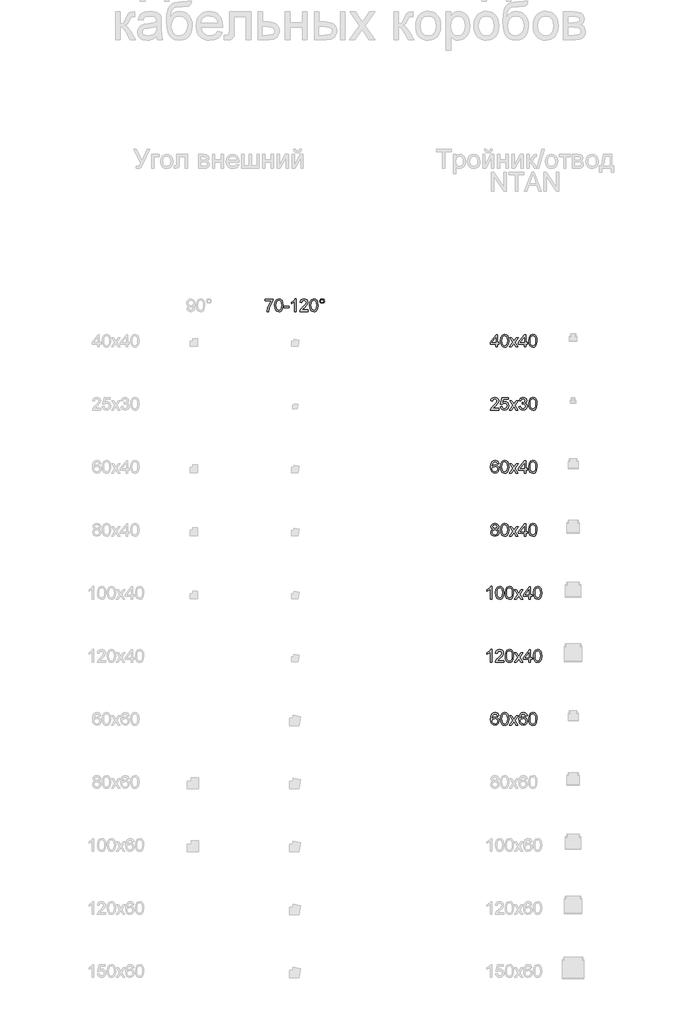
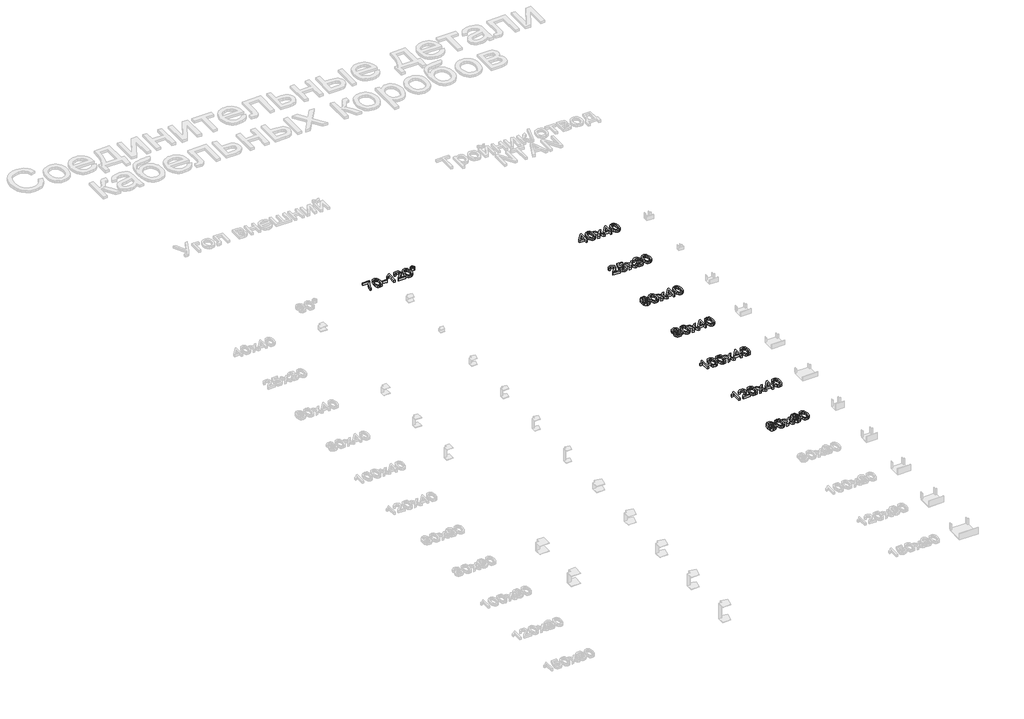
# One storey, part 24 of 28: 8 proxies.
"""IFC4 building model written with IfcOpenShell, lengths in millimetres."""

from ifc_helpers import new_model, si_unit, origin, origin_with_axes, place, context, project, spatial, polyline, outline, extrude, element, save

model = new_model("IFC4")

# Units and contexts
model_context = context("Model", 3, world=origin())
ifc_project = project(units=[si_unit("LENGTHUNIT", "METRE", prefix="MILLI")], contexts=[model_context])

# Site, building, storey
site = spatial("IfcSite", under=ifc_project)
building = spatial("IfcBuilding", under=site)
storey = spatial("IfcBuildingStorey", under=building, Name="Этаж 01", Elevation=0.0)

# Proxies
placement = place(None, origin())
element("IfcBuildingElementProxy", 1, Name="100 мм Arial", ObjectType="100 мм Arial", at=placement, inside=storey, context=model_context, shape_type="SweptSolid", body=[
    extrude(outline(polyline([(19426.7259865, 3404.3207982), (19426.7259865, 3416.877837), (19492.65044, 3416.877837), (19492.65044, 3406.7242939), (19473.949772, 3379.7094928), (19459.6391623, 3345.2880008), (19454.9793237, 3317.9911567), (19442.422285, 3317.9911567), (19447.4132174, 3346.3180703), (19461.1106903, 3378.3360667), (19480.0934013, 3404.3207982), (19426.7259865, 3404.3207982)])), origin_with_axes(), (0.0, 0.0, 1.0), 20.0),
    extrude(outline(polyline([(19503.637849, 3367.4099714), (19507.3289316, 3396.3132335), (19518.2918151, 3412.9782879), (19536.6000757, 3418.4474669), (19551.2663046, 3415.2101053), (19561.3953222, 3405.8781654), (19567.2814341, 3391.0157328), (19569.5623025, 3367.4099714), (19565.908008, 3338.6293366), (19554.9819128, 3321.9274941), (19546.7505531, 3317.7980187), (19536.6000757, 3316.4215269), (19523.5525276, 3318.8127598), (19513.6442392, 3325.9864587), (19506.1394465, 3342.9764756), (19503.637849, 3367.4099714)]), holes=[polyline([(19516.1948877, 3367.4344969), (19517.6664157, 3347.6822994), (19522.0809997, 3336.2503664), (19528.6538246, 3330.7965158), (19536.6000757, 3328.9785656), (19544.5463268, 3330.8026472), (19551.1191518, 3336.2748919), (19555.5337357, 3347.7129562), (19557.0052637, 3367.4344969), (19555.5827867, 3386.7421702), (19551.3153555, 3398.2630081), (19544.7547933, 3403.9835731), (19536.4529229, 3405.8904281), (19528.592511, 3404.2104336), (19522.2772034, 3399.1704503), (19517.7154666, 3386.9322426), (19516.1948877, 3367.4344969)])]), origin_with_axes(), (0.0, 0.0, 1.0), 20.0),
    extrude(outline(polyline([(19577.4104517, 3347.8141238), (19577.4104517, 3360.3711626), (19616.6511979, 3360.3711626), (19616.6511979, 3347.8141238), (19577.4104517, 3347.8141238)])), origin_with_axes(), (0.0, 0.0, 1.0), 20.0),
    extrude(outline(polyline([(19674.7275022, 3317.9911567), (19662.1704634, 3317.9911567), (19662.1704634, 3396.2764453), (19650.2756122, 3387.8028967), (19637.0563859, 3381.4630636), (19637.0563859, 3393.3333893), (19655.4627484, 3405.0810877), (19666.6340983, 3418.4474669), (19674.7275022, 3418.4474669), (19674.7275022, 3317.9911567)])), origin_with_axes(), (0.0, 0.0, 1.0), 20.0),
    extrude(outline(polyline([(19768.905293, 3330.5481955), (19768.905293, 3317.9911567), (19702.9808394, 3317.9911567), (19704.3297401, 3326.6486463), (19711.9571601, 3339.9782373), (19727.677984, 3354.5341016), (19749.3584963, 3375.4543244), (19754.7786243, 3389.6790948), (19749.6650646, 3401.1938013), (19736.3109482, 3405.8904281), (19722.392746, 3401.3041659), (19717.107508, 3388.6244998), (19704.5504693, 3390.1941296), (19707.5946928, 3402.3403668), (19714.1767148, 3411.2124543), (19723.9531788, 3416.6387137), (19736.5807283, 3418.4474669), (19749.3002483, 3416.4363786), (19759.0583182, 3410.4031139), (19765.2663269, 3401.390005), (19767.3356631, 3390.4393843), (19765.1038457, 3378.5322704), (19757.6848921, 3366.2204863), (19739.6954625, 3349.0158716), (19725.2499629, 3336.9370795), (19719.5845801, 3330.5481955), (19768.905293, 3330.5481955)])), origin_with_axes(), (0.0, 0.0, 1.0), 20.0),
    extrude(outline(polyline([(19781.4623317, 3367.4099714), (19785.1534144, 3396.3132335), (19796.1162979, 3412.9782879), (19814.4245585, 3418.4474669), (19829.0907874, 3415.2101053), (19839.219805, 3405.8781654), (19845.1059169, 3391.0157328), (19847.3867853, 3367.4099714), (19843.7324908, 3338.6293366), (19832.8063955, 3321.9274941), (19824.5750359, 3317.7980187), (19814.4245585, 3316.4215269), (19801.3770104, 3318.8127598), (19791.468722, 3325.9864587), (19783.9639293, 3342.9764756), (19781.4623317, 3367.4099714)]), holes=[polyline([(19794.0193705, 3367.4344969), (19795.4908985, 3347.6822994), (19799.9054824, 3336.2503664), (19806.4783074, 3330.7965158), (19814.4245585, 3328.9785656), (19822.3708096, 3330.8026472), (19828.9436346, 3336.2748919), (19833.3582185, 3347.7129562), (19834.8297465, 3367.4344969), (19833.4072694, 3386.7421702), (19829.1398383, 3398.2630081), (19822.579276, 3403.9835731), (19814.2774057, 3405.8904281), (19806.4169937, 3404.2104336), (19800.1016861, 3399.1704503), (19795.5399494, 3386.9322426), (19794.0193705, 3367.4344969)])]), origin_with_axes(), (0.0, 0.0, 1.0), 20.0),
    extrude(outline(polyline([(19861.5134539, 3401.206064), (19867.0439465, 3414.5233922), (19880.3244866, 3420.0170967), (19893.6908657, 3414.5233922), (19899.1845702, 3401.206064), (19893.6540775, 3387.8764731), (19880.3244866, 3382.3459804), (19867.0439465, 3387.8396849), (19861.5134539, 3401.206064)]), holes=[polyline([(19869.3616031, 3401.1815386), (19872.5867019, 3393.4069657), (19880.3735375, 3390.1941296), (19888.1113221, 3393.4069657), (19891.3364209, 3401.1815386), (19888.1113221, 3408.9561114), (19880.3735375, 3412.1689475), (19872.5867019, 3408.9561114), (19869.3616031, 3401.1815386)])]), origin_with_axes(), (0.0, 0.0, 1.0), 20.0),
])
element("IfcBuildingElementProxy", 2, Name="100 мм Arial", ObjectType="100 мм Arial", at=placement, inside=storey, context=model_context, shape_type="SweptSolid", body=[
    extrude(outline(polyline([(21259.7099126, 3036.6647442), (21259.7099126, 3060.2091919), (21214.1906471, 3060.2091919), (21214.1906471, 3072.7662307), (21262.8491723, 3135.5514245), (21272.2669514, 3135.5514245), (21272.2669514, 3072.7662307), (21284.8239902, 3072.7662307), (21284.8239902, 3060.2091919), (21272.2669514, 3060.2091919), (21272.2669514, 3036.6647442), (21259.7099126, 3036.6647442)]), holes=[polyline([(21259.7099126, 3072.7662307), (21259.7099126, 3111.5655184), (21229.6416909, 3072.7662307), (21259.7099126, 3072.7662307)])]), origin_with_axes(), (0.0, 0.0, 1.0), 20.0),
    extrude(outline(polyline([(21295.8113991, 3086.0835589), (21299.5024818, 3114.986821), (21310.4653652, 3131.6518754), (21328.7736259, 3137.1210543), (21343.4398547, 3133.8836928), (21353.5688723, 3124.5517528), (21359.4549843, 3109.6893202), (21361.7358526, 3086.0835589), (21358.0815581, 3057.3029241), (21347.1554629, 3040.6010815), (21338.9241032, 3036.4716062), (21328.7736259, 3035.0951144), (21315.7260778, 3037.4863473), (21305.8177894, 3044.6600462), (21298.3129967, 3061.650063), (21295.8113991, 3086.0835589)]), holes=[polyline([(21308.3684379, 3086.1080844), (21309.8399658, 3066.3558869), (21314.2545498, 3054.9239539), (21320.8273748, 3049.4701033), (21328.7736259, 3047.6521531), (21336.719877, 3049.4762347), (21343.2927019, 3054.9484794), (21347.7072859, 3066.3865437), (21349.1788139, 3086.1080844), (21347.7563368, 3105.4157577), (21343.4889057, 3116.9365955), (21336.9283434, 3122.6571606), (21328.6264731, 3124.5640156), (21320.7660611, 3122.8840211), (21314.4507535, 3117.8440378), (21309.8890168, 3105.6058301), (21308.3684379, 3086.1080844)])]), origin_with_axes(), (0.0, 0.0, 1.0), 20.0),
    extrude(outline(polyline([(21368.014372, 3036.6647442), (21394.8452322, 3073.7472493), (21369.5840019, 3110.437347), (21384.6916891, 3110.437347), (21396.8808459, 3092.7790112), (21402.5707541, 3084.4403526), (21407.5003728, 3091.2584323), (21421.3817868, 3110.437347), (21436.489474, 3110.437347), (21409.9529195, 3073.7472493), (21435.5084554, 3036.6647442), (21420.4007681, 3036.6647442), (21405.0233007, 3058.9583931), (21402.2028721, 3063.0296205), (21383.1220593, 3036.6647442), (21368.014372, 3036.6647442)])), origin_with_axes(), (0.0, 0.0, 1.0), 20.0),
    extrude(outline(polyline([(21484.1669806, 3036.6647442), (21484.1669806, 3060.2091919), (21438.6477151, 3060.2091919), (21438.6477151, 3072.7662307), (21487.3062403, 3135.5514245), (21496.7240194, 3135.5514245), (21496.7240194, 3072.7662307), (21509.2810582, 3072.7662307), (21509.2810582, 3060.2091919), (21496.7240194, 3060.2091919), (21496.7240194, 3036.6647442), (21484.1669806, 3036.6647442)]), holes=[polyline([(21484.1669806, 3072.7662307), (21484.1669806, 3111.5655184), (21454.0987589, 3072.7662307), (21484.1669806, 3072.7662307)])]), origin_with_axes(), (0.0, 0.0, 1.0), 20.0),
    extrude(outline(polyline([(21520.2684671, 3086.0835589), (21523.9595498, 3114.986821), (21534.9224332, 3131.6518754), (21553.2306938, 3137.1210543), (21567.8969227, 3133.8836928), (21578.0259403, 3124.5517528), (21583.9120522, 3109.6893202), (21586.1929206, 3086.0835589), (21582.5386261, 3057.3029241), (21571.6125309, 3040.6010815), (21563.3811712, 3036.4716062), (21553.2306938, 3035.0951144), (21540.1831458, 3037.4863473), (21530.2748573, 3044.6600462), (21522.7700646, 3061.650063), (21520.2684671, 3086.0835589)]), holes=[polyline([(21532.8255058, 3086.1080844), (21534.2970338, 3066.3558869), (21538.7116178, 3054.9239539), (21545.2844428, 3049.4701033), (21553.2306938, 3047.6521531), (21561.1769449, 3049.4762347), (21567.7497699, 3054.9484794), (21572.1643539, 3066.3865437), (21573.6358818, 3086.1080844), (21572.2134048, 3105.4157577), (21567.9459737, 3116.9365955), (21561.3854114, 3122.6571606), (21553.0835411, 3124.5640156), (21545.2231291, 3122.8840211), (21538.9078215, 3117.8440378), (21534.3460848, 3105.6058301), (21532.8255058, 3086.1080844)])]), origin_with_axes(), (0.0, 0.0, 1.0), 20.0),
])
element("IfcBuildingElementProxy", 3, Name="100 мм Arial", ObjectType="100 мм Arial", at=placement, inside=storey, context=model_context, shape_type="SweptSolid", body=[
    extrude(outline(polyline([(21283.2543603, 2549.221783), (21283.2543603, 2536.6647442), (21217.3299068, 2536.6647442), (21218.6788074, 2545.3222338), (21226.3062275, 2558.6518248), (21242.0270514, 2573.2076891), (21263.7075636, 2594.1279118), (21269.1276917, 2608.3526823), (21264.014132, 2619.8673888), (21250.6600155, 2624.5640156), (21236.7418134, 2619.9777534), (21231.4565754, 2607.2980873), (21218.8995366, 2608.8677171), (21221.9437601, 2621.0139543), (21228.5257822, 2629.8860418), (21238.3022462, 2635.3123012), (21250.9297957, 2637.1210543), (21263.6493157, 2635.1099661), (21273.4073856, 2629.0767014), (21279.6153943, 2620.0635925), (21281.6847305, 2609.1129718), (21279.452913, 2597.2058579), (21272.0339595, 2584.8940738), (21254.0445299, 2567.6894591), (21239.5990302, 2555.610667), (21233.9336475, 2549.221783), (21283.2543603, 2549.221783)])), origin_with_axes(), (0.0, 0.0, 1.0), 20.0),
    extrude(outline(polyline([(21295.8113991, 2563.3484516), (21308.3684379, 2564.9180814), (21314.6960082, 2551.9808979), (21327.8171327, 2547.6521531), (21336.8179788, 2549.1574036), (21343.5624821, 2553.6731551), (21347.7747309, 2560.6782414), (21349.1788139, 2569.6514964), (21343.9181013, 2584.56298), (21337.3115538, 2588.6648642), (21328.0133364, 2590.032159), (21316.9891393, 2587.8493925), (21309.9380677, 2582.1840097), (21297.3810289, 2583.7536396), (21308.3684379, 2635.5514245), (21357.0269631, 2635.5514245), (21357.0269631, 2622.9943857), (21318.5219809, 2622.9943857), (21313.1509038, 2595.3296597), (21322.1210931, 2600.7743132), (21331.5204781, 2602.5891977), (21343.2528481, 2600.3389862), (21352.9925239, 2593.5883516), (21359.5500204, 2583.2999185), (21361.7358526, 2570.4363114), (21359.767684, 2557.8792726), (21353.8631779, 2547.1371183), (21342.5569379, 2538.1056153), (21327.7680817, 2535.0951144), (21315.4348378, 2537.0295605), (21305.6093229, 2542.832899), (21298.8740167, 2551.8306794), (21295.8113991, 2563.3484516)])), origin_with_axes(), (0.0, 0.0, 1.0), 20.0),
    extrude(outline(polyline([(21368.014372, 2536.6647442), (21394.8452322, 2573.7472493), (21369.5840019, 2610.437347), (21384.6916891, 2610.437347), (21396.8808459, 2592.7790112), (21402.5707541, 2584.4403526), (21407.5003728, 2591.2584323), (21421.3817868, 2610.437347), (21436.489474, 2610.437347), (21409.9529195, 2573.7472493), (21435.5084554, 2536.6647442), (21420.4007681, 2536.6647442), (21405.0233007, 2558.9583931), (21402.2028721, 2563.0296205), (21383.1220593, 2536.6647442), (21368.014372, 2536.6647442)])), origin_with_axes(), (0.0, 0.0, 1.0), 20.0),
    extrude(outline(polyline([(21443.3566046, 2563.3484516), (21455.9136434, 2564.9180814), (21462.8420876, 2551.6988551), (21475.8037966, 2547.6521531), (21484.4122353, 2549.0439733), (21491.0586367, 2553.219434), (21496.7240194, 2567.0027461), (21491.1076876, 2579.9889805), (21476.8338662, 2585.1270657), (21468.0292238, 2583.7536396), (21469.4271753, 2596.3106783), (21471.4382636, 2596.1635256), (21485.6875595, 2599.7687691), (21490.4332373, 2604.3427686), (21492.0151299, 2610.8542799), (21487.4288676, 2620.6767292), (21475.6075929, 2624.5640156), (21463.6391653, 2620.639941), (21457.4832732, 2608.8677171), (21444.9262345, 2610.437347), (21448.6234485, 2621.7129301), (21455.2024049, 2630.1312964), (21464.203251, 2635.3736149), (21475.1661345, 2637.1210543), (21490.3106099, 2633.6752263), (21500.9056114, 2624.2574473), (21504.5721686, 2611.5900439), (21501.0895524, 2600.0140238), (21490.7888565, 2591.6998907), (21504.4740668, 2583.1159775), (21509.2810582, 2566.7820169), (21506.8775625, 2554.5438092), (21499.6670754, 2544.3166897), (21488.7838997, 2537.4005082), (21475.3623382, 2535.0951144), (21463.2222324, 2537.063283), (21453.3384694, 2542.967789), (21446.4652075, 2551.999292), (21443.3566046, 2563.3484516)])), origin_with_axes(), (0.0, 0.0, 1.0), 20.0),
    extrude(outline(polyline([(21520.2684671, 2586.0835589), (21523.9595498, 2614.986821), (21534.9224332, 2631.6518754), (21553.2306938, 2637.1210543), (21567.8969227, 2633.8836928), (21578.0259403, 2624.5517528), (21583.9120522, 2609.6893202), (21586.1929206, 2586.0835589), (21582.5386261, 2557.3029241), (21571.6125309, 2540.6010815), (21563.3811712, 2536.4716062), (21553.2306938, 2535.0951144), (21540.1831458, 2537.4863473), (21530.2748573, 2544.6600462), (21522.7700646, 2561.650063), (21520.2684671, 2586.0835589)]), holes=[polyline([(21532.8255058, 2586.1080844), (21534.2970338, 2566.3558869), (21538.7116178, 2554.9239539), (21545.2844428, 2549.4701033), (21553.2306938, 2547.6521531), (21561.1769449, 2549.4762347), (21567.7497699, 2554.9484794), (21572.1643539, 2566.3865437), (21573.6358818, 2586.1080844), (21572.2134048, 2605.4157577), (21567.9459737, 2616.9365955), (21561.3854114, 2622.6571606), (21553.0835411, 2624.5640156), (21545.2231291, 2622.8840211), (21538.9078215, 2617.8440378), (21534.3460848, 2605.6058301), (21532.8255058, 2586.1080844)])]), origin_with_axes(), (0.0, 0.0, 1.0), 20.0),
])
element("IfcBuildingElementProxy", 4, Name="100 мм Arial", ObjectType="100 мм Arial", at=placement, inside=storey, context=model_context, shape_type="SweptSolid", body=[
    extrude(outline(polyline([(21283.2543603, 2110.437347), (21270.6973216, 2108.8677171), (21265.9393811, 2119.3400912), (21253.3578168, 2124.5640156), (21242.0270514, 2121.5228578), (21233.4554009, 2110.1062532), (21229.8869456, 2087.7267651), (21240.9601936, 2097.7454181), (21254.682192, 2101.0195679), (21266.2827376, 2098.7816191), (21276.0193477, 2092.0677727), (21282.6228296, 2081.8099964), (21284.8239902, 2068.9402579), (21280.6791864, 2051.6130159), (21269.2748445, 2039.3502828), (21252.8182566, 2035.0951144), (21238.5720263, 2037.915543), (21227.2259325, 2046.3768289), (21219.8039132, 2061.3128379), (21217.3299068, 2083.5574359), (21220.076759, 2108.5672802), (21228.3173157, 2125.6676616), (21239.5683734, 2134.2577062), (21254.1426318, 2137.1210543), (21265.1606975, 2135.3490894), (21273.983734, 2130.0331946), (21280.1641516, 2121.5903028), (21283.2543603, 2110.437347)]), holes=[polyline([(21229.8869456, 2069.1364616), (21232.7932133, 2058.2594173), (21240.5187352, 2050.3622172), (21251.8372379, 2047.6521531), (21260.1237799, 2049.0562361), (21266.6383569, 2053.2684849), (21270.8598028, 2059.8903608), (21272.2669514, 2068.523325), (21270.8781969, 2076.8098669), (21266.7119333, 2083.1282402), (21260.0869917, 2087.1289569), (21251.3222031, 2088.4625291), (21236.1286767, 2083.1282402), (21231.4473784, 2076.9631511), (21229.8869456, 2069.1364616)])]), origin_with_axes(), (0.0, 0.0, 1.0), 20.0),
    extrude(outline(polyline([(21295.8113991, 2086.0835589), (21299.5024818, 2114.986821), (21310.4653652, 2131.6518754), (21328.7736259, 2137.1210543), (21343.4398547, 2133.8836928), (21353.5688723, 2124.5517528), (21359.4549843, 2109.6893202), (21361.7358526, 2086.0835589), (21358.0815581, 2057.3029241), (21347.1554629, 2040.6010815), (21338.9241032, 2036.4716062), (21328.7736259, 2035.0951144), (21315.7260778, 2037.4863473), (21305.8177894, 2044.6600462), (21298.3129967, 2061.650063), (21295.8113991, 2086.0835589)]), holes=[polyline([(21308.3684379, 2086.1080844), (21309.8399658, 2066.3558869), (21314.2545498, 2054.9239539), (21320.8273748, 2049.4701033), (21328.7736259, 2047.6521531), (21336.719877, 2049.4762347), (21343.2927019, 2054.9484794), (21347.7072859, 2066.3865437), (21349.1788139, 2086.1080844), (21347.7563368, 2105.4157577), (21343.4889057, 2116.9365955), (21336.9283434, 2122.6571606), (21328.6264731, 2124.5640156), (21320.7660611, 2122.8840211), (21314.4507535, 2117.8440378), (21309.8890168, 2105.6058301), (21308.3684379, 2086.1080844)])]), origin_with_axes(), (0.0, 0.0, 1.0), 20.0),
    extrude(outline(polyline([(21368.014372, 2036.6647442), (21394.8452322, 2073.7472493), (21369.5840019, 2110.437347), (21384.6916891, 2110.437347), (21396.8808459, 2092.7790112), (21402.5707541, 2084.4403526), (21407.5003728, 2091.2584323), (21421.3817868, 2110.437347), (21436.489474, 2110.437347), (21409.9529195, 2073.7472493), (21435.5084554, 2036.6647442), (21420.4007681, 2036.6647442), (21405.0233007, 2058.9583931), (21402.2028721, 2063.0296205), (21383.1220593, 2036.6647442), (21368.014372, 2036.6647442)])), origin_with_axes(), (0.0, 0.0, 1.0), 20.0),
    extrude(outline(polyline([(21484.1669806, 2036.6647442), (21484.1669806, 2060.2091919), (21438.6477151, 2060.2091919), (21438.6477151, 2072.7662307), (21487.3062403, 2135.5514245), (21496.7240194, 2135.5514245), (21496.7240194, 2072.7662307), (21509.2810582, 2072.7662307), (21509.2810582, 2060.2091919), (21496.7240194, 2060.2091919), (21496.7240194, 2036.6647442), (21484.1669806, 2036.6647442)]), holes=[polyline([(21484.1669806, 2072.7662307), (21484.1669806, 2111.5655184), (21454.0987589, 2072.7662307), (21484.1669806, 2072.7662307)])]), origin_with_axes(), (0.0, 0.0, 1.0), 20.0),
    extrude(outline(polyline([(21520.2684671, 2086.0835589), (21523.9595498, 2114.986821), (21534.9224332, 2131.6518754), (21553.2306938, 2137.1210543), (21567.8969227, 2133.8836928), (21578.0259403, 2124.5517528), (21583.9120522, 2109.6893202), (21586.1929206, 2086.0835589), (21582.5386261, 2057.3029241), (21571.6125309, 2040.6010815), (21563.3811712, 2036.4716062), (21553.2306938, 2035.0951144), (21540.1831458, 2037.4863473), (21530.2748573, 2044.6600462), (21522.7700646, 2061.650063), (21520.2684671, 2086.0835589)]), holes=[polyline([(21532.8255058, 2086.1080844), (21534.2970338, 2066.3558869), (21538.7116178, 2054.9239539), (21545.2844428, 2049.4701033), (21553.2306938, 2047.6521531), (21561.1769449, 2049.4762347), (21567.7497699, 2054.9484794), (21572.1643539, 2066.3865437), (21573.6358818, 2086.1080844), (21572.2134048, 2105.4157577), (21567.9459737, 2116.9365955), (21561.3854114, 2122.6571606), (21553.0835411, 2124.5640156), (21545.2231291, 2122.8840211), (21538.9078215, 2117.8440378), (21534.3460848, 2105.6058301), (21532.8255058, 2086.1080844)])]), origin_with_axes(), (0.0, 0.0, 1.0), 20.0),
])
element("IfcBuildingElementProxy", 5, Name="100 мм Arial", ObjectType="100 мм Arial", at=placement, inside=storey, context=model_context, shape_type="SweptSolid", body=[
    extrude(outline(polyline([(21237.1955345, 1591.9941963), (21225.7544045, 1599.7932946), (21222.0387963, 1611.9334004), (21224.0621473, 1621.7497183), (21230.1322002, 1629.8615163), (21239.5683734, 1635.3061698), (21251.6900851, 1637.1210543), (21263.8853733, 1635.2632503), (21273.4441738, 1629.689838), (21279.6245913, 1621.4492814), (21281.6847305, 1611.5900439), (21278.0181733, 1599.7565064), (21266.8958743, 1591.9941963), (21280.2499907, 1582.1472215), (21284.8239902, 1565.8991001), (21282.5553845, 1553.8938843), (21275.7495676, 1543.9733332), (21265.2404053, 1537.3146691), (21251.8617634, 1535.0951144), (21238.4831215, 1537.3238661), (21227.9739592, 1544.0101214), (21221.1681423, 1554.0257087), (21218.8995366, 1566.2424566), (21223.6574771, 1582.8707228), (21237.1955345, 1591.9941963)]), holes=[polyline([(21234.5958351, 1611.5655184), (21239.0472072, 1601.7062809), (21252.0089162, 1597.8803082), (21264.7131078, 1601.6817555), (21269.1276917, 1611.0014327), (21264.565955, 1620.6522037), (21251.8617634, 1624.5640156), (21239.1207836, 1620.7380428), (21234.5958351, 1611.5655184)]), polyline([(21231.4565754, 1566.683915), (21233.5535028, 1557.2293477), (21240.9724563, 1550.1537507), (21251.9598653, 1547.6521531), (21260.5069903, 1548.9673313), (21266.9203997, 1552.9128657), (21272.2669514, 1566.2915075), (21266.7487215, 1579.9276668), (21260.1881592, 1583.9743688), (21251.5429323, 1585.3232694), (21243.115369, 1583.9927629), (21236.7663389, 1580.0012432), (21231.4565754, 1566.683915)])]), origin_with_axes(), (0.0, 0.0, 1.0), 20.0),
    extrude(outline(polyline([(21295.8113991, 1586.0835589), (21299.5024818, 1614.986821), (21310.4653652, 1631.6518754), (21328.7736259, 1637.1210543), (21343.4398547, 1633.8836928), (21353.5688723, 1624.5517528), (21359.4549843, 1609.6893202), (21361.7358526, 1586.0835589), (21358.0815581, 1557.3029241), (21347.1554629, 1540.6010815), (21338.9241032, 1536.4716062), (21328.7736259, 1535.0951144), (21315.7260778, 1537.4863473), (21305.8177894, 1544.6600462), (21298.3129967, 1561.650063), (21295.8113991, 1586.0835589)]), holes=[polyline([(21308.3684379, 1586.1080844), (21309.8399658, 1566.3558869), (21314.2545498, 1554.9239539), (21320.8273748, 1549.4701033), (21328.7736259, 1547.6521531), (21336.719877, 1549.4762347), (21343.2927019, 1554.9484794), (21347.7072859, 1566.3865437), (21349.1788139, 1586.1080844), (21347.7563368, 1605.4157577), (21343.4889057, 1616.9365955), (21336.9283434, 1622.6571606), (21328.6264731, 1624.5640156), (21320.7660611, 1622.8840211), (21314.4507535, 1617.8440378), (21309.8890168, 1605.6058301), (21308.3684379, 1586.1080844)])]), origin_with_axes(), (0.0, 0.0, 1.0), 20.0),
    extrude(outline(polyline([(21368.014372, 1536.6647442), (21394.8452322, 1573.7472493), (21369.5840019, 1610.437347), (21384.6916891, 1610.437347), (21396.8808459, 1592.7790112), (21402.5707541, 1584.4403526), (21407.5003728, 1591.2584323), (21421.3817868, 1610.437347), (21436.489474, 1610.437347), (21409.9529195, 1573.7472493), (21435.5084554, 1536.6647442), (21420.4007681, 1536.6647442), (21405.0233007, 1558.9583931), (21402.2028721, 1563.0296205), (21383.1220593, 1536.6647442), (21368.014372, 1536.6647442)])), origin_with_axes(), (0.0, 0.0, 1.0), 20.0),
    extrude(outline(polyline([(21484.1669806, 1536.6647442), (21484.1669806, 1560.2091919), (21438.6477151, 1560.2091919), (21438.6477151, 1572.7662307), (21487.3062403, 1635.5514245), (21496.7240194, 1635.5514245), (21496.7240194, 1572.7662307), (21509.2810582, 1572.7662307), (21509.2810582, 1560.2091919), (21496.7240194, 1560.2091919), (21496.7240194, 1536.6647442), (21484.1669806, 1536.6647442)]), holes=[polyline([(21484.1669806, 1572.7662307), (21484.1669806, 1611.5655184), (21454.0987589, 1572.7662307), (21484.1669806, 1572.7662307)])]), origin_with_axes(), (0.0, 0.0, 1.0), 20.0),
    extrude(outline(polyline([(21520.2684671, 1586.0835589), (21523.9595498, 1614.986821), (21534.9224332, 1631.6518754), (21553.2306938, 1637.1210543), (21567.8969227, 1633.8836928), (21578.0259403, 1624.5517528), (21583.9120522, 1609.6893202), (21586.1929206, 1586.0835589), (21582.5386261, 1557.3029241), (21571.6125309, 1540.6010815), (21563.3811712, 1536.4716062), (21553.2306938, 1535.0951144), (21540.1831458, 1537.4863473), (21530.2748573, 1544.6600462), (21522.7700646, 1561.650063), (21520.2684671, 1586.0835589)]), holes=[polyline([(21532.8255058, 1586.1080844), (21534.2970338, 1566.3558869), (21538.7116178, 1554.9239539), (21545.2844428, 1549.4701033), (21553.2306938, 1547.6521531), (21561.1769449, 1549.4762347), (21567.7497699, 1554.9484794), (21572.1643539, 1566.3865437), (21573.6358818, 1586.1080844), (21572.2134048, 1605.4157577), (21567.9459737, 1616.9365955), (21561.3854114, 1622.6571606), (21553.0835411, 1624.5640156), (21545.2231291, 1622.8840211), (21538.9078215, 1617.8440378), (21534.3460848, 1605.6058301), (21532.8255058, 1586.1080844)])]), origin_with_axes(), (0.0, 0.0, 1.0), 20.0),
])
element("IfcBuildingElementProxy", 6, Name="100 мм Arial", ObjectType="100 мм Arial", at=placement, inside=storey, context=model_context, shape_type="SweptSolid", body=[
    extrude(outline(polyline([(21227.5325008, 1036.6647442), (21214.975462, 1036.6647442), (21214.975462, 1114.9500328), (21203.0806108, 1106.4764842), (21189.8613845, 1100.1366511), (21189.8613845, 1112.0069768), (21208.267747, 1123.7546752), (21219.4390969, 1137.1210543), (21227.5325008, 1137.1210543), (21227.5325008, 1036.6647442)])), origin_with_axes(), (0.0, 0.0, 1.0), 20.0),
    extrude(outline(polyline([(21257.3554679, 1086.0835589), (21261.0465505, 1114.986821), (21272.009434, 1131.6518754), (21290.3176946, 1137.1210543), (21304.9839235, 1133.8836928), (21315.1129411, 1124.5517528), (21320.999053, 1109.6893202), (21323.2799214, 1086.0835589), (21319.6256269, 1057.3029241), (21308.6995317, 1040.6010815), (21300.468172, 1036.4716062), (21290.3176946, 1035.0951144), (21277.2701465, 1037.4863473), (21267.3618581, 1044.6600462), (21259.8570654, 1061.650063), (21257.3554679, 1086.0835589)]), holes=[polyline([(21269.9125066, 1086.1080844), (21271.3840346, 1066.3558869), (21275.7986186, 1054.9239539), (21282.3714435, 1049.4701033), (21290.3176946, 1047.6521531), (21298.2639457, 1049.4762347), (21304.8367707, 1054.9484794), (21309.2513546, 1066.3865437), (21310.7228826, 1086.1080844), (21309.3004056, 1105.4157577), (21305.0329744, 1116.9365955), (21298.4724122, 1122.6571606), (21290.1705418, 1124.5640156), (21282.3101299, 1122.8840211), (21275.9948223, 1117.8440378), (21271.4330855, 1105.6058301), (21269.9125066, 1086.1080844)])]), origin_with_axes(), (0.0, 0.0, 1.0), 20.0),
    extrude(outline(polyline([(21334.2673303, 1086.0835589), (21337.958413, 1114.986821), (21348.9212965, 1131.6518754), (21367.2295571, 1137.1210543), (21381.895786, 1133.8836928), (21392.0248036, 1124.5517528), (21397.9109155, 1109.6893202), (21400.1917839, 1086.0835589), (21396.5374894, 1057.3029241), (21385.6113941, 1040.6010815), (21377.3800345, 1036.4716062), (21367.2295571, 1035.0951144), (21354.182009, 1037.4863473), (21344.2737206, 1044.6600462), (21336.7689279, 1061.650063), (21334.2673303, 1086.0835589)]), holes=[polyline([(21346.8243691, 1086.1080844), (21348.2958971, 1066.3558869), (21352.710481, 1054.9239539), (21359.283306, 1049.4701033), (21367.2295571, 1047.6521531), (21375.1758082, 1049.4762347), (21381.7486332, 1054.9484794), (21386.1632171, 1066.3865437), (21387.6347451, 1086.1080844), (21386.212268, 1105.4157577), (21381.9448369, 1116.9365955), (21375.3842746, 1122.6571606), (21367.0824043, 1124.5640156), (21359.2219923, 1122.8840211), (21352.9066847, 1117.8440378), (21348.344948, 1105.6058301), (21346.8243691, 1086.1080844)])]), origin_with_axes(), (0.0, 0.0, 1.0), 20.0),
    extrude(outline(polyline([(21406.4703032, 1036.6647442), (21433.3011634, 1073.7472493), (21408.0399331, 1110.437347), (21423.1476204, 1110.437347), (21435.3367771, 1092.7790112), (21441.0266853, 1084.4403526), (21445.9563041, 1091.2584323), (21459.837718, 1110.437347), (21474.9454053, 1110.437347), (21448.4088507, 1073.7472493), (21473.9643866, 1036.6647442), (21458.8566994, 1036.6647442), (21443.479232, 1058.9583931), (21440.6588033, 1063.0296205), (21421.5779905, 1036.6647442), (21406.4703032, 1036.6647442)])), origin_with_axes(), (0.0, 0.0, 1.0), 20.0),
    extrude(outline(polyline([(21522.6229119, 1036.6647442), (21522.6229119, 1060.2091919), (21477.1036463, 1060.2091919), (21477.1036463, 1072.7662307), (21525.7621715, 1135.5514245), (21535.1799506, 1135.5514245), (21535.1799506, 1072.7662307), (21547.7369894, 1072.7662307), (21547.7369894, 1060.2091919), (21535.1799506, 1060.2091919), (21535.1799506, 1036.6647442), (21522.6229119, 1036.6647442)]), holes=[polyline([(21522.6229119, 1072.7662307), (21522.6229119, 1111.5655184), (21492.5546901, 1072.7662307), (21522.6229119, 1072.7662307)])]), origin_with_axes(), (0.0, 0.0, 1.0), 20.0),
    extrude(outline(polyline([(21558.7243983, 1086.0835589), (21562.415481, 1114.986821), (21573.3783645, 1131.6518754), (21591.6866251, 1137.1210543), (21606.352854, 1133.8836928), (21616.4818716, 1124.5517528), (21622.3679835, 1109.6893202), (21624.6488518, 1086.0835589), (21620.9945574, 1057.3029241), (21610.0684621, 1040.6010815), (21601.8371025, 1036.4716062), (21591.6866251, 1035.0951144), (21578.639077, 1037.4863473), (21568.7307886, 1044.6600462), (21561.2259959, 1061.650063), (21558.7243983, 1086.0835589)]), holes=[polyline([(21571.2814371, 1086.1080844), (21572.7529651, 1066.3558869), (21577.167549, 1054.9239539), (21583.740374, 1049.4701033), (21591.6866251, 1047.6521531), (21599.6328762, 1049.4762347), (21606.2057012, 1054.9484794), (21610.6202851, 1066.3865437), (21612.0918131, 1086.1080844), (21610.669336, 1105.4157577), (21606.4019049, 1116.9365955), (21599.8413426, 1122.6571606), (21591.5394723, 1124.5640156), (21583.6790603, 1122.8840211), (21577.3637527, 1117.8440378), (21572.802016, 1105.6058301), (21571.2814371, 1086.1080844)])]), origin_with_axes(), (0.0, 0.0, 1.0), 20.0),
])
element("IfcBuildingElementProxy", 7, Name="100 мм Arial", ObjectType="100 мм Arial", at=placement, inside=storey, context=model_context, shape_type="SweptSolid", body=[
    extrude(outline(polyline([(21227.5325008, 536.6647442), (21214.975462, 536.6647442), (21214.975462, 614.9500328), (21203.0806108, 606.4764842), (21189.8613845, 600.1366511), (21189.8613845, 612.0069768), (21208.267747, 623.7546752), (21219.4390969, 637.1210543), (21227.5325008, 637.1210543), (21227.5325008, 536.6647442)])), origin_with_axes(), (0.0, 0.0, 1.0), 20.0),
    extrude(outline(polyline([(21321.7102916, 549.221783), (21321.7102916, 536.6647442), (21255.785838, 536.6647442), (21257.1347387, 545.3222338), (21264.7621587, 558.6518248), (21280.4829826, 573.2076891), (21302.1634949, 594.1279118), (21307.5836229, 608.3526823), (21302.4700632, 619.8673888), (21289.1159468, 624.5640156), (21275.1977446, 619.9777534), (21269.9125066, 607.2980873), (21257.3554679, 608.8677171), (21260.3996914, 621.0139543), (21266.9817134, 629.8860418), (21276.7581774, 635.3123012), (21289.3857269, 637.1210543), (21302.1052469, 635.1099661), (21311.8633168, 629.0767014), (21318.0713255, 620.0635925), (21320.1406617, 609.1129718), (21317.9088443, 597.2058579), (21310.4898907, 584.8940738), (21292.5004611, 567.6894591), (21278.0549615, 555.610667), (21272.3895787, 549.221783), (21321.7102916, 549.221783)])), origin_with_axes(), (0.0, 0.0, 1.0), 20.0),
    extrude(outline(polyline([(21334.2673303, 586.0835589), (21337.958413, 614.986821), (21348.9212965, 631.6518754), (21367.2295571, 637.1210543), (21381.895786, 633.8836928), (21392.0248036, 624.5517528), (21397.9109155, 609.6893202), (21400.1917839, 586.0835589), (21396.5374894, 557.3029241), (21385.6113941, 540.6010815), (21377.3800345, 536.4716062), (21367.2295571, 535.0951144), (21354.182009, 537.4863473), (21344.2737206, 544.6600462), (21336.7689279, 561.650063), (21334.2673303, 586.0835589)]), holes=[polyline([(21346.8243691, 586.1080844), (21348.2958971, 566.3558869), (21352.710481, 554.9239539), (21359.283306, 549.4701033), (21367.2295571, 547.6521531), (21375.1758082, 549.4762347), (21381.7486332, 554.9484794), (21386.1632171, 566.3865437), (21387.6347451, 586.1080844), (21386.212268, 605.4157577), (21381.9448369, 616.9365955), (21375.3842746, 622.6571606), (21367.0824043, 624.5640156), (21359.2219923, 622.8840211), (21352.9066847, 617.8440378), (21348.344948, 605.6058301), (21346.8243691, 586.1080844)])]), origin_with_axes(), (0.0, 0.0, 1.0), 20.0),
    extrude(outline(polyline([(21406.4703032, 536.6647442), (21433.3011634, 573.7472493), (21408.0399331, 610.437347), (21423.1476204, 610.437347), (21435.3367771, 592.7790112), (21441.0266853, 584.4403526), (21445.9563041, 591.2584323), (21459.837718, 610.437347), (21474.9454053, 610.437347), (21448.4088507, 573.7472493), (21473.9643866, 536.6647442), (21458.8566994, 536.6647442), (21443.479232, 558.9583931), (21440.6588033, 563.0296205), (21421.5779905, 536.6647442), (21406.4703032, 536.6647442)])), origin_with_axes(), (0.0, 0.0, 1.0), 20.0),
    extrude(outline(polyline([(21522.6229119, 536.6647442), (21522.6229119, 560.2091919), (21477.1036463, 560.2091919), (21477.1036463, 572.7662307), (21525.7621715, 635.5514245), (21535.1799506, 635.5514245), (21535.1799506, 572.7662307), (21547.7369894, 572.7662307), (21547.7369894, 560.2091919), (21535.1799506, 560.2091919), (21535.1799506, 536.6647442), (21522.6229119, 536.6647442)]), holes=[polyline([(21522.6229119, 572.7662307), (21522.6229119, 611.5655184), (21492.5546901, 572.7662307), (21522.6229119, 572.7662307)])]), origin_with_axes(), (0.0, 0.0, 1.0), 20.0),
    extrude(outline(polyline([(21558.7243983, 586.0835589), (21562.415481, 614.986821), (21573.3783645, 631.6518754), (21591.6866251, 637.1210543), (21606.352854, 633.8836928), (21616.4818716, 624.5517528), (21622.3679835, 609.6893202), (21624.6488518, 586.0835589), (21620.9945574, 557.3029241), (21610.0684621, 540.6010815), (21601.8371025, 536.4716062), (21591.6866251, 535.0951144), (21578.639077, 537.4863473), (21568.7307886, 544.6600462), (21561.2259959, 561.650063), (21558.7243983, 586.0835589)]), holes=[polyline([(21571.2814371, 586.1080844), (21572.7529651, 566.3558869), (21577.167549, 554.9239539), (21583.740374, 549.4701033), (21591.6866251, 547.6521531), (21599.6328762, 549.4762347), (21606.2057012, 554.9484794), (21610.6202851, 566.3865437), (21612.0918131, 586.1080844), (21610.669336, 605.4157577), (21606.4019049, 616.9365955), (21599.8413426, 622.6571606), (21591.5394723, 624.5640156), (21583.6790603, 622.8840211), (21577.3637527, 617.8440378), (21572.802016, 605.6058301), (21571.2814371, 586.1080844)])]), origin_with_axes(), (0.0, 0.0, 1.0), 20.0),
])
element("IfcBuildingElementProxy", 8, Name="100 мм Arial", ObjectType="100 мм Arial", at=placement, inside=storey, context=model_context, shape_type="SweptSolid", body=[
    extrude(outline(polyline([(21283.2543603, 110.437347), (21270.6973216, 108.8677171), (21265.9393811, 119.3400912), (21253.3578168, 124.5640156), (21242.0270514, 121.5228578), (21233.4554009, 110.1062532), (21229.8869456, 87.7267651), (21240.9601936, 97.7454181), (21254.682192, 101.0195679), (21266.2827376, 98.7816191), (21276.0193477, 92.0677727), (21282.6228296, 81.8099964), (21284.8239902, 68.9402579), (21280.6791864, 51.6130159), (21269.2748445, 39.3502828), (21252.8182566, 35.0951144), (21238.5720263, 37.915543), (21227.2259325, 46.3768289), (21219.8039132, 61.3128379), (21217.3299068, 83.5574359), (21220.076759, 108.5672802), (21228.3173157, 125.6676616), (21239.5683734, 134.2577062), (21254.1426318, 137.1210543), (21265.1606975, 135.3490894), (21273.983734, 130.0331946), (21280.1641516, 121.5903028), (21283.2543603, 110.437347)]), holes=[polyline([(21229.8869456, 69.1364616), (21232.7932133, 58.2594173), (21240.5187352, 50.3622172), (21251.8372379, 47.6521531), (21260.1237799, 49.0562361), (21266.6383569, 53.2684849), (21270.8598028, 59.8903608), (21272.2669514, 68.523325), (21270.8781969, 76.8098669), (21266.7119333, 83.1282402), (21260.0869917, 87.1289569), (21251.3222031, 88.4625291), (21236.1286767, 83.1282402), (21231.4473784, 76.9631511), (21229.8869456, 69.1364616)])]), origin_with_axes(), (0.0, 0.0, 1.0), 20.0),
    extrude(outline(polyline([(21295.8113991, 86.0835589), (21299.5024818, 114.986821), (21310.4653652, 131.6518754), (21328.7736259, 137.1210543), (21343.4398547, 133.8836928), (21353.5688723, 124.5517528), (21359.4549843, 109.6893202), (21361.7358526, 86.0835589), (21358.0815581, 57.3029241), (21347.1554629, 40.6010815), (21338.9241032, 36.4716062), (21328.7736259, 35.0951144), (21315.7260778, 37.4863473), (21305.8177894, 44.6600462), (21298.3129967, 61.650063), (21295.8113991, 86.0835589)]), holes=[polyline([(21308.3684379, 86.1080844), (21309.8399658, 66.3558869), (21314.2545498, 54.9239539), (21320.8273748, 49.4701033), (21328.7736259, 47.6521531), (21336.719877, 49.4762347), (21343.2927019, 54.9484794), (21347.7072859, 66.3865437), (21349.1788139, 86.1080844), (21347.7563368, 105.4157577), (21343.4889057, 116.9365955), (21336.9283434, 122.6571606), (21328.6264731, 124.5640156), (21320.7660611, 122.8840211), (21314.4507535, 117.8440378), (21309.8890168, 105.6058301), (21308.3684379, 86.1080844)])]), origin_with_axes(), (0.0, 0.0, 1.0), 20.0),
    extrude(outline(polyline([(21368.014372, 36.6647442), (21394.8452322, 73.7472493), (21369.5840019, 110.437347), (21384.6916891, 110.437347), (21396.8808459, 92.7790112), (21402.5707541, 84.4403526), (21407.5003728, 91.2584323), (21421.3817868, 110.437347), (21436.489474, 110.437347), (21409.9529195, 73.7472493), (21435.5084554, 36.6647442), (21420.4007681, 36.6647442), (21405.0233007, 58.9583931), (21402.2028721, 63.0296205), (21383.1220593, 36.6647442), (21368.014372, 36.6647442)])), origin_with_axes(), (0.0, 0.0, 1.0), 20.0),
    extrude(outline(polyline([(21507.7114283, 110.437347), (21495.1543895, 108.8677171), (21490.3964491, 119.3400912), (21477.8148848, 124.5640156), (21466.4841194, 121.5228578), (21457.9124689, 110.1062532), (21454.3440135, 87.7267651), (21465.4172616, 97.7454181), (21479.13926, 101.0195679), (21490.7398056, 98.7816191), (21500.4764157, 92.0677727), (21507.0798976, 81.8099964), (21509.2810582, 68.9402579), (21505.1362543, 51.6130159), (21493.7319125, 39.3502828), (21477.2753246, 35.0951144), (21463.0290943, 37.915543), (21451.6830004, 46.3768289), (21444.2609812, 61.3128379), (21441.7869748, 83.5574359), (21444.533827, 108.5672802), (21452.7743837, 125.6676616), (21464.0254414, 134.2577062), (21478.5996998, 137.1210543), (21489.6177655, 135.3490894), (21498.440802, 130.0331946), (21504.6212196, 121.5903028), (21507.7114283, 110.437347)]), holes=[polyline([(21454.3440135, 69.1364616), (21457.2502813, 58.2594173), (21464.9758032, 50.3622172), (21476.2943059, 47.6521531), (21484.5808479, 49.0562361), (21491.0954249, 53.2684849), (21495.3168708, 59.8903608), (21496.7240194, 68.523325), (21495.3352649, 76.8098669), (21491.1690013, 83.1282402), (21484.5440597, 87.1289569), (21475.7792711, 88.4625291), (21460.5857447, 83.1282402), (21455.9044463, 76.9631511), (21454.3440135, 69.1364616)])]), origin_with_axes(), (0.0, 0.0, 1.0), 20.0),
    extrude(outline(polyline([(21520.2684671, 86.0835589), (21523.9595498, 114.986821), (21534.9224332, 131.6518754), (21553.2306938, 137.1210543), (21567.8969227, 133.8836928), (21578.0259403, 124.5517528), (21583.9120522, 109.6893202), (21586.1929206, 86.0835589), (21582.5386261, 57.3029241), (21571.6125309, 40.6010815), (21563.3811712, 36.4716062), (21553.2306938, 35.0951144), (21540.1831458, 37.4863473), (21530.2748573, 44.6600462), (21522.7700646, 61.650063), (21520.2684671, 86.0835589)]), holes=[polyline([(21532.8255058, 86.1080844), (21534.2970338, 66.3558869), (21538.7116178, 54.9239539), (21545.2844428, 49.4701033), (21553.2306938, 47.6521531), (21561.1769449, 49.4762347), (21567.7497699, 54.9484794), (21572.1643539, 66.3865437), (21573.6358818, 86.1080844), (21572.2134048, 105.4157577), (21567.9459737, 116.9365955), (21561.3854114, 122.6571606), (21553.0835411, 124.5640156), (21545.2231291, 122.8840211), (21538.9078215, 117.8440378), (21534.3460848, 105.6058301), (21532.8255058, 86.1080844)])]), origin_with_axes(), (0.0, 0.0, 1.0), 20.0),
])

save(model, "model.ifc")
